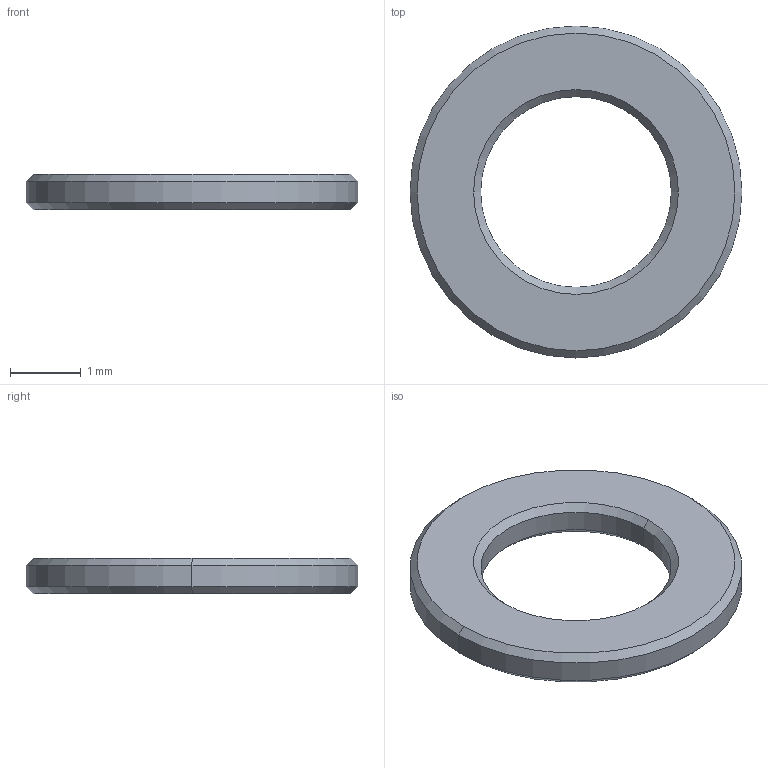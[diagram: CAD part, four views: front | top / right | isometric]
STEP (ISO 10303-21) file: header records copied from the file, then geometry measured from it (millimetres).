
FILE_DESCRIPTION(('CATIA V5 STEP Exchange','CAx-IF Rec.Pracs.--- Model Styling and Organization---1.5--- 2016-08-15','CAx-IF Rec.Pracs.---Supplemental Geometry---1.0---2011-11-01','CAx-IF Rec.Pracs.--- Composite Materials ---1.1---2010-07-15'),'2;1');
FILE_NAME('W:\8-25-003 RENOVATION DEBITMETRE PHI100 A S3\CATIA\Etude\S3MA-8-25003-1019--_RONDELLE_M2_5_EP0_5.stp','2026-02-06T10:09:00+00:00',('none'),('none'),'CATIA Version 5-6 Release 2020 SP6 HF13','CATIA V5 STEP AP214 v2','none');
FILE_SCHEMA(('AUTOMOTIVE_DESIGN { 1 0 10303 214 1 1 1 1 }'));
Length unit declared in the file: millimetre
Products named in the file (1): S3MA-8-25003-1019--_RONDELLE_M2_5_EP0_5
Bounding box: 4.7 x 4.7 x 0.5 mm (x, y, z)
Volume: 5.6 mm3; surface area: 32.1 mm2
Topology: 1 solids, 1 shells, 14 faces, 28 edges, 16 vertices
Faces by surface type: cone 8, cylinder 4, plane 2
Entity records: 363 total; most frequent: CARTESIAN_POINT 57, ORIENTED_EDGE 56, DIRECTION 52, AXIS2_PLACEMENT_3D 29, EDGE_CURVE 28, CIRCLE 16, EDGE_LOOP 16, VERTEX_POINT 16
